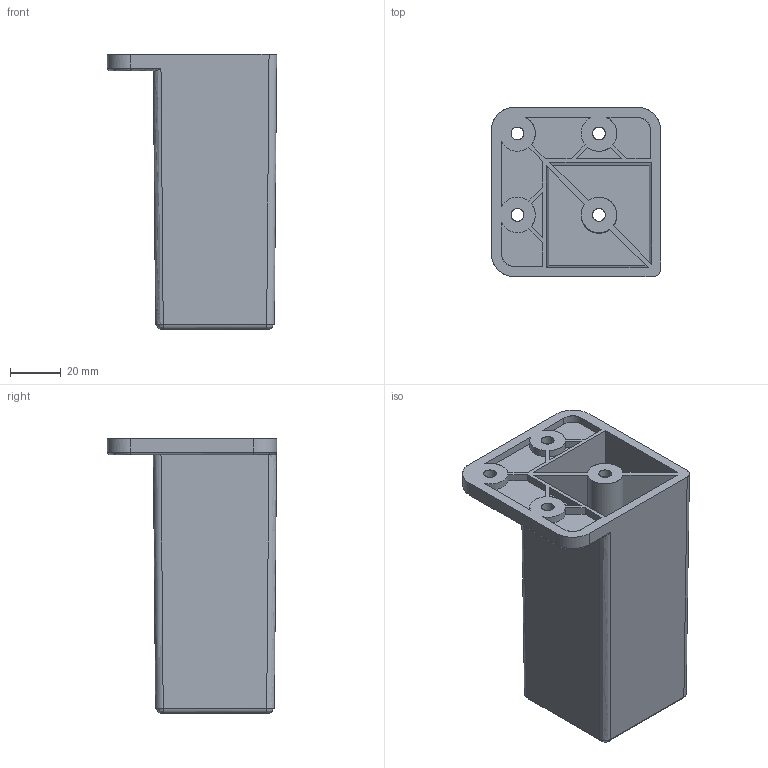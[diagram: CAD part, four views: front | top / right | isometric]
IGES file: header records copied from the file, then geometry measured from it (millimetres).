
Start section: C
Global section: file name: 8110-108.igs; native system: By Siemens PLM Incorporated; preprocessor: XPlus GENERIC/IGES 16.0.42; author: Author; organization: Title; date: 20231128.101503; units: millimetre
Bounding box: 66.5 x 66.5 x 108 mm (x, y, z)
Surface area: 62806 mm2 (no closed solid volume)
Topology: 0 solids, 0 shells, 116 faces, 626 edges, 626 vertices
Faces by surface type: bspline 116
